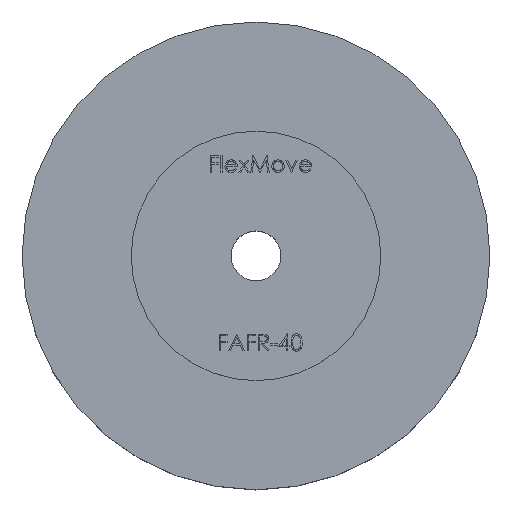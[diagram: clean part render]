
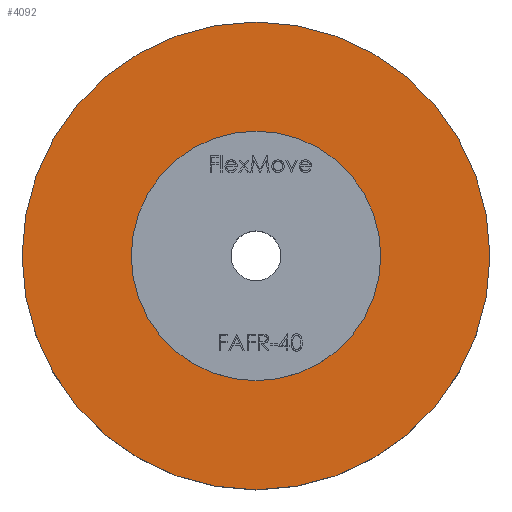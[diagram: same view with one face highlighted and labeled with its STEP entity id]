
A CAD part, top view. The second image highlights one B-rep face of the part: STEP entity #4092.
In plain terms, the highlighted planar face has unit normal (0, 0, 1).
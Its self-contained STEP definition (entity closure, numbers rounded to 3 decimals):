
#736 = FACE_OUTER_BOUND ( 'NONE', #9558, .T. ) ;
#754 = EDGE_CURVE ( 'NONE', #3114, #9604, #5870, .T. ) ;
#868 = CARTESIAN_POINT ( 'NONE',  ( 37.5, 0., 15. ) ) ;
#1027 = CARTESIAN_POINT ( 'NONE',  ( -37.5, 0., 15. ) ) ;
#1604 = DIRECTION ( 'NONE',  ( 1., 0., 0. ) ) ;
#1942 = EDGE_LOOP ( 'NONE', ( #5594, #2242 ) ) ;
#1948 = CIRCLE ( 'NONE', #7529, 5.5 ) ;
#2006 = DIRECTION ( 'NONE',  ( 0., 0., 1. ) ) ;
#2089 = ORIENTED_EDGE ( 'NONE', *, *, #3308, .T. ) ;
#2143 = CARTESIAN_POINT ( 'NONE',  ( 5.5, 0., 15. ) ) ;
#2242 = ORIENTED_EDGE ( 'NONE', *, *, #754, .F. ) ;
#2334 = CARTESIAN_POINT ( 'NONE',  ( 0., 0., 15. ) ) ;
#2451 = CARTESIAN_POINT ( 'NONE',  ( 0., 0., 15. ) ) ;
#3114 = VERTEX_POINT ( 'NONE', #2143 ) ;
#3178 = DIRECTION ( 'NONE',  ( 0., 0., 1. ) ) ;
#3308 = EDGE_CURVE ( 'NONE', #10248, #3350, #9634, .T. ) ;
#3350 = VERTEX_POINT ( 'NONE', #868 ) ;
#4092 = ADVANCED_FACE ( 'NONE', ( #736, #8248 ), #5867, .T. ) ;
#4666 = AXIS2_PLACEMENT_3D ( 'NONE', #9483, #3178, #11143 ) ;
#4919 = EDGE_CURVE ( 'NONE', #3350, #10248, #6403, .T. ) ;
#5198 = EDGE_CURVE ( 'NONE', #9604, #3114, #1948, .T. ) ;
#5290 = AXIS2_PLACEMENT_3D ( 'NONE', #2334, #8552, #1604 ) ;
#5594 = ORIENTED_EDGE ( 'NONE', *, *, #5198, .F. ) ;
#5598 = DIRECTION ( 'NONE',  ( 1., 0., 0. ) ) ;
#5867 = PLANE ( 'NONE',  #5290 ) ;
#5870 = CIRCLE ( 'NONE', #4666, 5.5 ) ;
#6067 = DIRECTION ( 'NONE',  ( 1., 0., 0. ) ) ;
#6403 = CIRCLE ( 'NONE', #6414, 37.5 ) ;
#6414 = AXIS2_PLACEMENT_3D ( 'NONE', #8131, #2006, #5598 ) ;
#6674 = ORIENTED_EDGE ( 'NONE', *, *, #4919, .T. ) ;
#7529 = AXIS2_PLACEMENT_3D ( 'NONE', #11434, #7914, #9565 ) ;
#7914 = DIRECTION ( 'NONE',  ( 0., 0., 1. ) ) ;
#8131 = CARTESIAN_POINT ( 'NONE',  ( 0., 0., 15. ) ) ;
#8248 = FACE_BOUND ( 'NONE', #1942, .T. ) ;
#8552 = DIRECTION ( 'NONE',  ( 0., 0., 1. ) ) ;
#9483 = CARTESIAN_POINT ( 'NONE',  ( 0., 0., 15. ) ) ;
#9558 = EDGE_LOOP ( 'NONE', ( #2089, #6674 ) ) ;
#9565 = DIRECTION ( 'NONE',  ( 1., 0., 0. ) ) ;
#9604 = VERTEX_POINT ( 'NONE', #9981 ) ;
#9634 = CIRCLE ( 'NONE', #10310, 37.5 ) ;
#9981 = CARTESIAN_POINT ( 'NONE',  ( -5.5, 0., 15. ) ) ;
#10248 = VERTEX_POINT ( 'NONE', #1027 ) ;
#10310 = AXIS2_PLACEMENT_3D ( 'NONE', #2451, #10402, #6067 ) ;
#10402 = DIRECTION ( 'NONE',  ( 0., 0., 1. ) ) ;
#11143 = DIRECTION ( 'NONE',  ( 1., 0., 0. ) ) ;
#11434 = CARTESIAN_POINT ( 'NONE',  ( 0., 0., 15. ) ) ;
